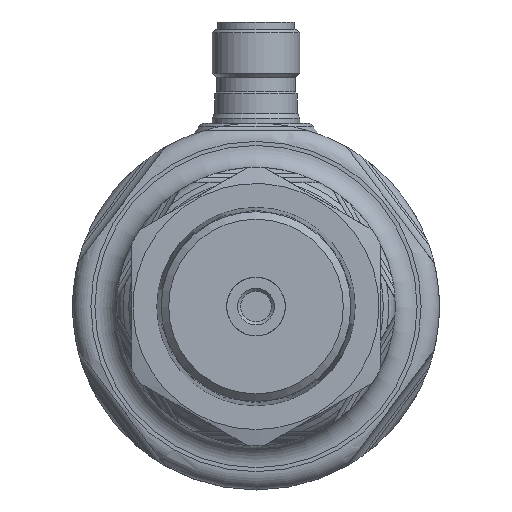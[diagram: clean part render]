
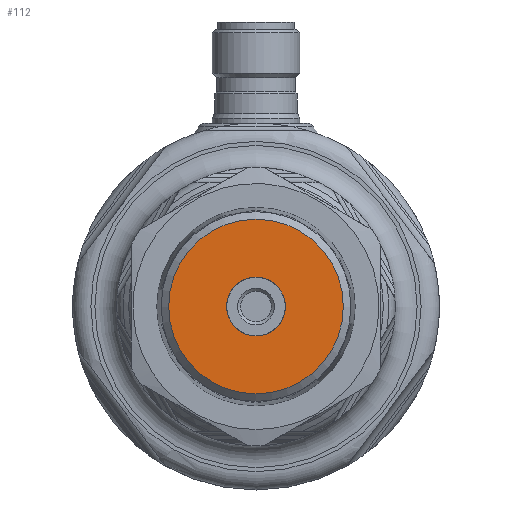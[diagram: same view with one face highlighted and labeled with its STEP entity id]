
A CAD part, front view. The second image highlights one B-rep face of the part: STEP entity #112.
In plain terms, the highlighted planar face has unit normal (0, -1, 0).
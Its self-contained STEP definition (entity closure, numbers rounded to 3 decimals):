
#112 = ADVANCED_FACE( '', ( #323, #324 ), #325, .F. );
#323 = FACE_BOUND( '', #705, .T. );
#324 = FACE_OUTER_BOUND( '', #706, .T. );
#325 = PLANE( '', #707 );
#705 = EDGE_LOOP( '', ( #1381 ) );
#706 = EDGE_LOOP( '', ( #1382 ) );
#707 = AXIS2_PLACEMENT_3D( '', #1383, #1384, #1385 );
#1381 = ORIENTED_EDGE( '', *, *, #2535, .F. );
#1382 = ORIENTED_EDGE( '', *, *, #2536, .T. );
#1383 = CARTESIAN_POINT( '', ( 6., -20., 0. ) );
#1384 = DIRECTION( '', ( 0., 1., 0. ) );
#1385 = DIRECTION( '', ( 0., 0., 1. ) );
#2535 = EDGE_CURVE( '', #3100, #3100, #3101, .T. );
#2536 = EDGE_CURVE( '', #3102, #3102, #3103, .T. );
#3100 = VERTEX_POINT( '', #4566 );
#3101 = CIRCLE( '', #4567, 3. );
#3102 = VERTEX_POINT( '', #4568 );
#3103 = CIRCLE( '', #4569, 11.924 );
#4566 = CARTESIAN_POINT( '', ( 0., -20., -3. ) );
#4567 = AXIS2_PLACEMENT_3D( '', #5854, #5855, #5856 );
#4568 = CARTESIAN_POINT( '', ( 0., -20., -11.924 ) );
#4569 = AXIS2_PLACEMENT_3D( '', #5857, #5858, #5859 );
#5854 = CARTESIAN_POINT( '', ( 0., -20., 0. ) );
#5855 = DIRECTION( '', ( 0., -1., 0. ) );
#5856 = DIRECTION( '', ( 0., 0., -1. ) );
#5857 = CARTESIAN_POINT( '', ( 0., -20., 0. ) );
#5858 = DIRECTION( '', ( 0., -1., 0. ) );
#5859 = DIRECTION( '', ( 0., 0., -1. ) );
